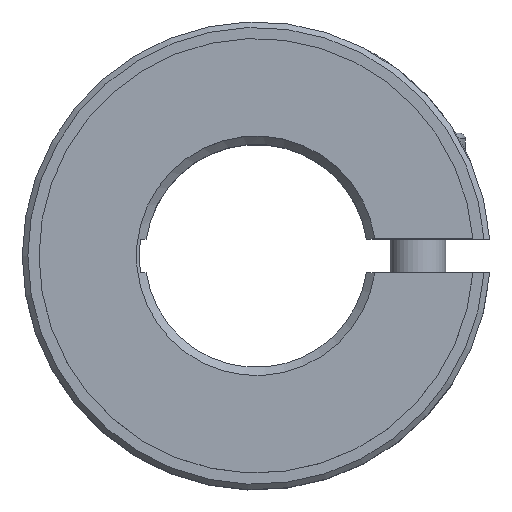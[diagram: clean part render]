
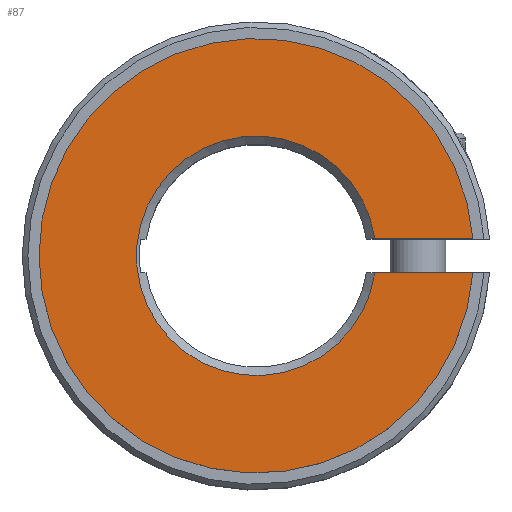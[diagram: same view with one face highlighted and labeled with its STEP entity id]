
A CAD part, top view. The second image highlights one B-rep face of the part: STEP entity #87.
In plain terms, the highlighted planar face has unit normal (0, 0, 1).
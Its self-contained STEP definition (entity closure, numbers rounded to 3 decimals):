
#87 = ADVANCED_FACE( '', ( #138 ), #139, .T. );
#138 = FACE_OUTER_BOUND( '', #221, .T. );
#139 = PLANE( '', #222 );
#221 = EDGE_LOOP( '', ( #379, #380, #381, #382 ) );
#222 = AXIS2_PLACEMENT_3D( '', #383, #384, #385 );
#379 = ORIENTED_EDGE( '', *, *, #599, .F. );
#380 = ORIENTED_EDGE( '', *, *, #587, .T. );
#381 = ORIENTED_EDGE( '', *, *, #600, .T. );
#382 = ORIENTED_EDGE( '', *, *, #592, .T. );
#383 = CARTESIAN_POINT( '', ( 0., 19.5, 10.5 ) );
#384 = DIRECTION( '', ( 0., 0., 1. ) );
#385 = DIRECTION( '', ( 1., 0., 0. ) );
#587 = EDGE_CURVE( '', #701, #699, #702, .T. );
#592 = EDGE_CURVE( '', #710, #708, #711, .T. );
#599 = EDGE_CURVE( '', #701, #708, #720, .T. );
#600 = EDGE_CURVE( '', #699, #710, #721, .T. );
#699 = VERTEX_POINT( '', #958 );
#701 = VERTEX_POINT( '', #961 );
#702 = LINE( '', #962, #963 );
#708 = VERTEX_POINT( '', #972 );
#710 = VERTEX_POINT( '', #975 );
#711 = LINE( '', #976, #977 );
#720 = CIRCLE( '', #991, 19.5 );
#721 = CIRCLE( '', #992, 10.75 );
#958 = CARTESIAN_POINT( '', ( 10.641, -1.53, 10.5 ) );
#961 = CARTESIAN_POINT( '', ( 19.44, -1.53, 10.5 ) );
#962 = CARTESIAN_POINT( '', ( 0., -1.53, 10.5 ) );
#963 = VECTOR( '', #1128, 1000. );
#972 = CARTESIAN_POINT( '', ( 19.44, 1.53, 10.5 ) );
#975 = CARTESIAN_POINT( '', ( 10.641, 1.53, 10.5 ) );
#976 = CARTESIAN_POINT( '', ( 0., 1.53, 10.5 ) );
#977 = VECTOR( '', #1133, 1000. );
#991 = AXIS2_PLACEMENT_3D( '', #1145, #1146, #1147 );
#992 = AXIS2_PLACEMENT_3D( '', #1148, #1149, #1150 );
#1128 = DIRECTION( '', ( -1., 0., 0. ) );
#1133 = DIRECTION( '', ( 1., 0., 0. ) );
#1145 = CARTESIAN_POINT( '', ( 0., 0., 10.5 ) );
#1146 = DIRECTION( '', ( 0., 0., -1. ) );
#1147 = DIRECTION( '', ( -1., 0., 0. ) );
#1148 = CARTESIAN_POINT( '', ( 0., 0., 10.5 ) );
#1149 = DIRECTION( '', ( 0., 0., -1. ) );
#1150 = DIRECTION( '', ( -1., 0., 0. ) );
